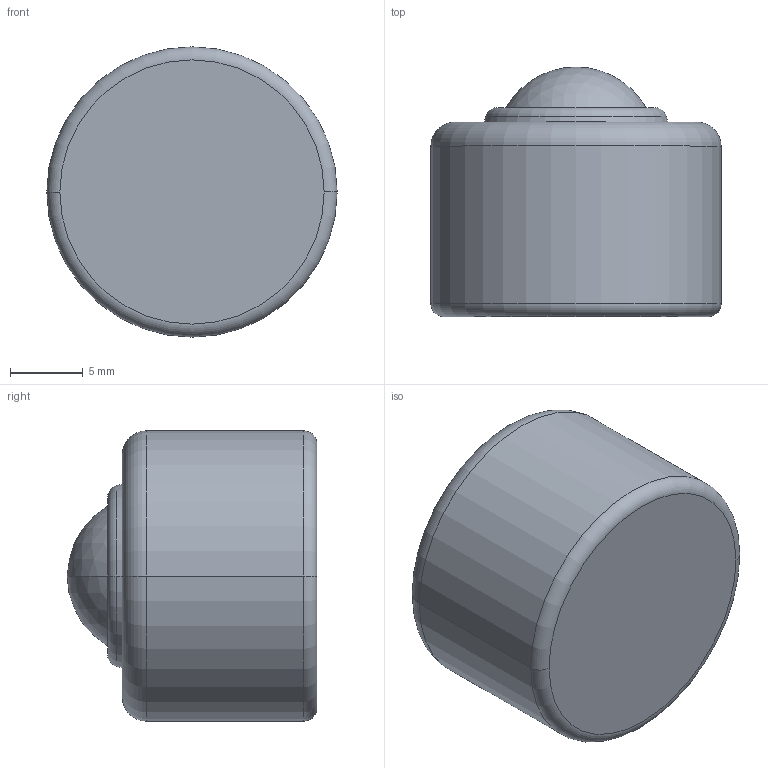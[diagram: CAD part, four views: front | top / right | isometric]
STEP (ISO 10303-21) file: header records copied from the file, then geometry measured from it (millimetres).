
FILE_DESCRIPTION (( 'STEP AP203' ), '1' );
FILE_NAME ('pv5-c.STEP', '2015-06-07T15:36:45', ( '' ), ( '' ), 'SwSTEP 2.0', 'SolidWorks 2015', '' );
FILE_SCHEMA (( 'CONFIG_CONTROL_DESIGN' ));
Length unit declared in the file: millimetre
Products named in the file (1): pv5-c
Bounding box: 20 x 17.2 x 20 mm (x, y, z)
Volume: 4395.5 mm3; surface area: 1447.4 mm2
Topology: 1 solids, 1 shells, 15 faces, 28 edges, 17 vertices
Faces by surface type: torus 6, plane 3, cylinder 2, cone 2, sphere 2
Entity records: 463 total; most frequent: DIRECTION 84, CARTESIAN_POINT 61, ORIENTED_EDGE 56, AXIS2_PLACEMENT_3D 40, EDGE_CURVE 28, CIRCLE 24, VERTEX_POINT 17, EDGE_LOOP 17
